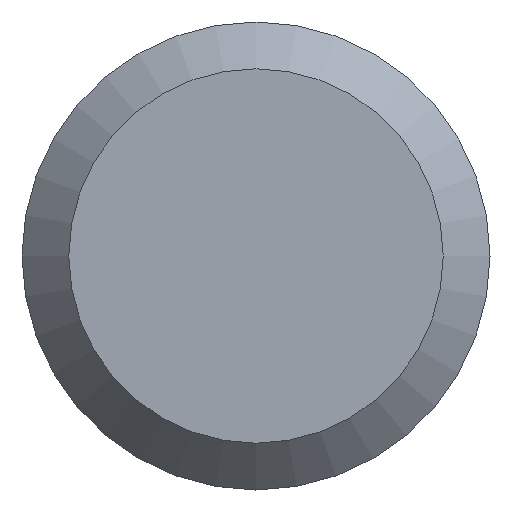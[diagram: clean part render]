
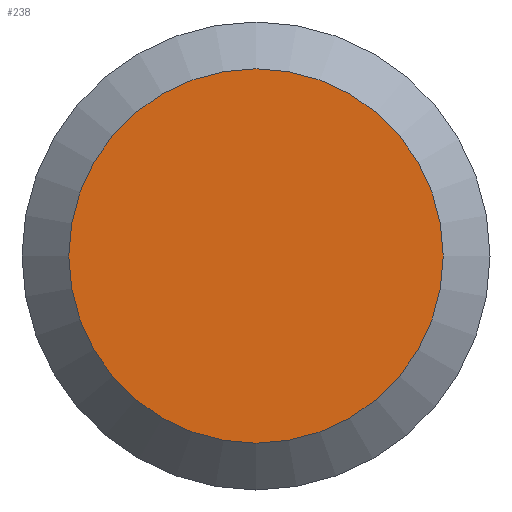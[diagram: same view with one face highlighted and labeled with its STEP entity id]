
A CAD part, left-side view. The second image highlights one B-rep face of the part: STEP entity #238.
In plain terms, the highlighted planar face has unit normal (-1, 0, 0).
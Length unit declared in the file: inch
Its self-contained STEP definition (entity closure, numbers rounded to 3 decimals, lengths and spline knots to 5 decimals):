
#10 = CARTESIAN_POINT ( 'NONE',  ( 0., 0., 0. ) ) ;
#11 = DIRECTION ( 'NONE',  ( -1., 0., 0. ) ) ;
#12 = DIRECTION ( 'NONE',  ( 0., 0., -1. ) ) ;
#15 = DIRECTION ( 'NONE',  ( 1., 0., 0. ) ) ;
#35 = FACE_OUTER_BOUND ( 'NONE', #74, .T. ) ;
#38 = PLANE ( 'NONE',  #88 ) ;
#74 = EDGE_LOOP ( 'NONE', ( #245 ) ) ;
#88 = AXIS2_PLACEMENT_3D ( 'NONE', #176, #15, #187 ) ;
#110 = AXIS2_PLACEMENT_3D ( 'NONE', #10, #11, #12 ) ;
#130 = CARTESIAN_POINT ( 'NONE',  ( 0., 0., -0.0708 ) ) ;
#133 = CIRCLE ( 'NONE', #110, 0.0708 ) ;
#172 = VERTEX_POINT ( 'NONE', #130 ) ;
#176 = CARTESIAN_POINT ( 'NONE',  ( 0., 0.0885, 0. ) ) ;
#187 = DIRECTION ( 'NONE',  ( 0., 0., -1. ) ) ;
#230 = EDGE_CURVE ( 'NONE', #172, #172, #133, .T. ) ;
#238 = ADVANCED_FACE ( 'NONE', ( #35 ), #38, .F. ) ;
#245 = ORIENTED_EDGE ( 'NONE', *, *, #230, .T. ) ;
